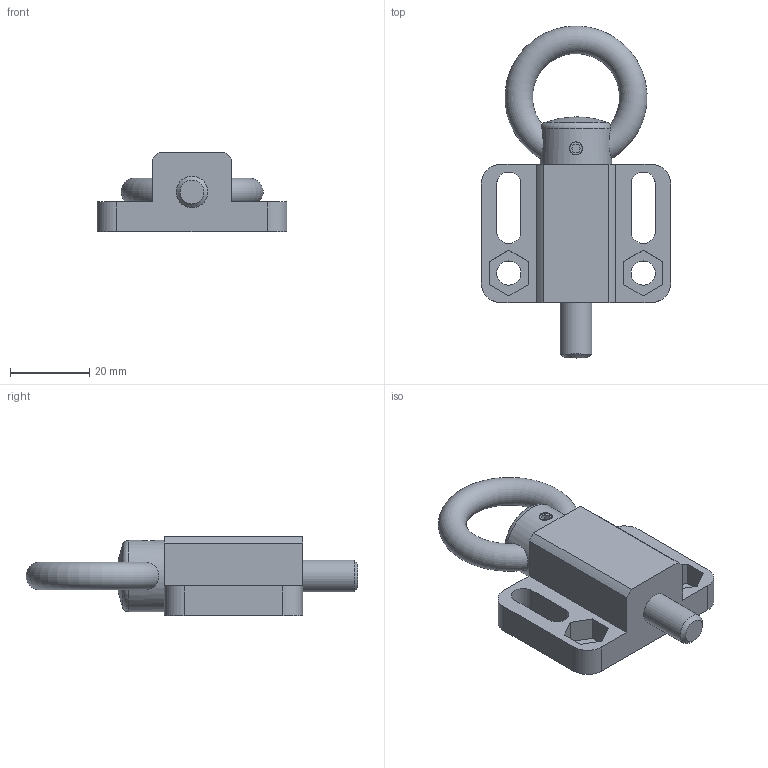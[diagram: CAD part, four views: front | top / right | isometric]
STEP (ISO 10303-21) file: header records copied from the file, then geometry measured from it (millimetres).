
FILE_DESCRIPTION(/* description */ ('STEP AP214'),/* implementation_level */ '2;1');
FILE_NAME(/* name */ 'Indexing plunger GN 722.6-8-20-A-ZB (deactivated)',/* time_stamp */ '2023-02-28T07:39:08+01:00',/* author */ ('License CC BY-ND 4.0'),/* organization */ ('CADENAS'),/* preprocessor_version */ 'ST-DEVELOPER v18.102',/* originating_system */ 'PARTsolutions',/* authorisation */ ' ');
FILE_SCHEMA (('AUTOMOTIVE_DESIGN {1 0 10303 214 3 1 1}'));
Length unit declared in the file: millimetre
Products named in the file (3): Indexing plunger GN 722.6-8-20-A-ZB (deactivated); Indexing plunger GN 722.6-8-20-A-ZB (deactivated)-2; Indexing plunger GN 722.6-8-20-A-ZB (deactivated)-1
Assembly tree (2 placements, depth 2):
  Indexing plunger GN 722.6-8-20-A-ZB (deactivated)
    Indexing plunger GN 722.6-8-20-A-ZB (deactivated)-2
    Indexing plunger GN 722.6-8-20-A-ZB (deactivated)-1
Bounding box: 48 x 83.99 x 20 mm (x, y, z)
Volume: 24305.9 mm3; surface area: 11188.2 mm2
Topology: 2 solids, 2 shells, 67 faces, 166 edges, 109 vertices
Faces by surface type: plane 42, cylinder 20, torus 2, cone 2, sphere 1
Full cylindrical faces by diameter (mm): 3.3 x1, 6.1 x2, 8 x4, 10 x2, 18 x1
Entity records: 2016 total; most frequent: CARTESIAN_POINT 370, DIRECTION 326, ORIENTED_EDGE 296, EDGE_CURVE 148, AXIS2_PLACEMENT_3D 113, VERTEX_POINT 106, LINE 100, VECTOR 100
